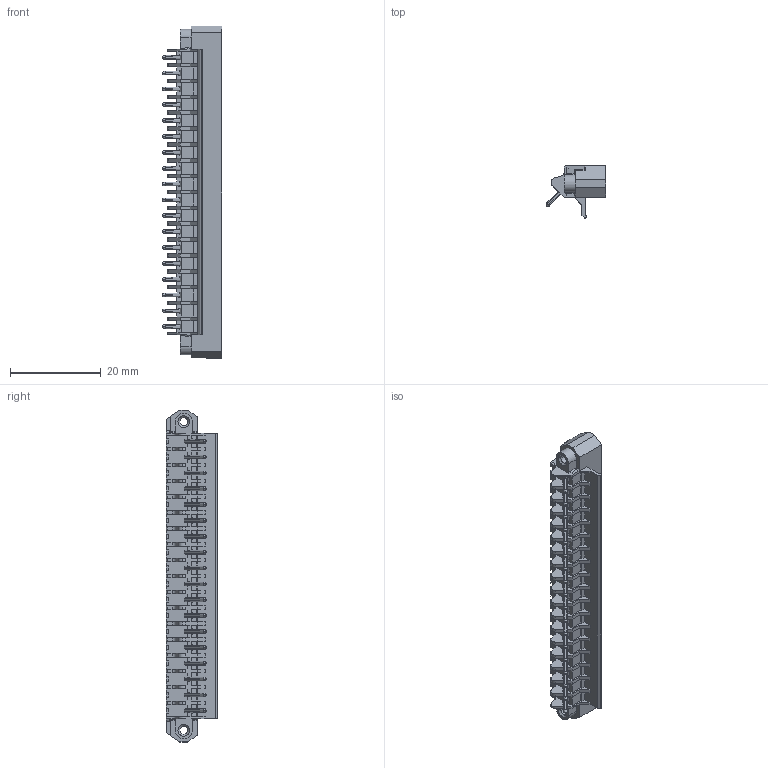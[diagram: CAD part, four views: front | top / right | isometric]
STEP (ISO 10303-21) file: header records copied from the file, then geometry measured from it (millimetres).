
FILE_DESCRIPTION (( 'STEP AP214' ), '1' );
FILE_NAME ('110-V-215-18.STEP', '2008-08-24T03:30:42', ( ' ' ), ( '' ), 'SwSTEP 2.0', 'SolidWorks 2007', '' );
FILE_SCHEMA (( 'AUTOMOTIVE_DESIGN' ));
Products named in the file (1): 110-V-215-18
Bounding box: 13.23 x 11.4 x 73.3 mm (x, y, z)
Volume: 2521.5 mm3; surface area: 7247.9 mm2
Topology: 1 solids, 1 shells, 2000 faces, 5449 edges, 3463 vertices
Faces by surface type: plane 1439, cylinder 338, cone 204, bspline 19
Entity records: 64618 total; most frequent: CARTESIAN_POINT 14759, ORIENTED_EDGE 10898, DIRECTION 9655, EDGE_CURVE 5449, LINE 4219, VECTOR 4219, VERTEX_POINT 3463, AXIS2_PLACEMENT_3D 2718
